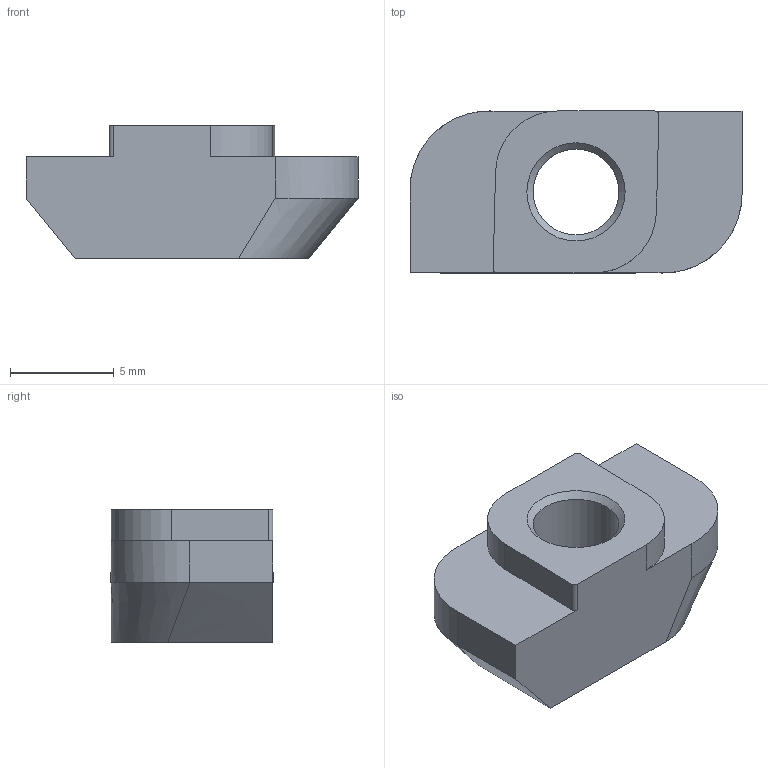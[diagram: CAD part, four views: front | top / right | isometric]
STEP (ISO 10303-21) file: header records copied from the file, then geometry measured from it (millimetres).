
FILE_DESCRIPTION((''),'2;1');
FILE_NAME('E:\catalogue and flyer\Profile catalogue 2015\Accessories JE info\Accessories-JE step file 31MAr16\JE-RN5-8_3030.stp','2016-03-31T16:32:59',('h029'),(''),'Autodesk Inventor 11','Autodesk Inventor 11','');
FILE_SCHEMA(('AUTOMOTIVE_DESIGN { 1 0 10303 214 1 1 1 1 }'));
Length unit declared in the file: millimetre
Products named in the file (1): JE-RN5-8_3030
Bounding box: 16 x 7.81 x 6.4 mm (x, y, z)
Volume: 528.3 mm3; surface area: 514 mm2
Topology: 1 solids, 1 shells, 22 faces, 61 edges, 41 vertices
Faces by surface type: plane 10, cylinder 6, bspline 5, cone 1
Entity records: 850 total; most frequent: CARTESIAN_POINT 283, ORIENTED_EDGE 116, DIRECTION 104, EDGE_CURVE 58, VERTEX_POINT 40, AXIS2_PLACEMENT_3D 35, VECTOR 34, LINE 34
